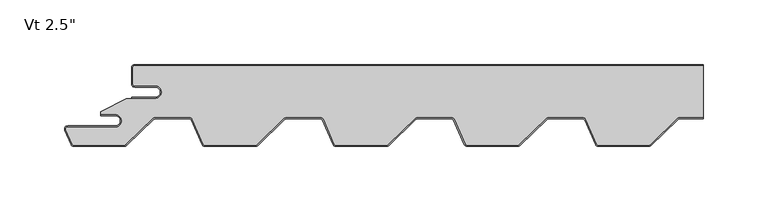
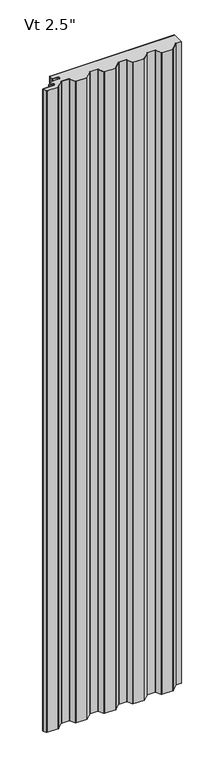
"""IFC4 building model written with IfcOpenShell, lengths in millimetres: plate geometry."""

from ifc_helpers import new_model, si_unit, point, frame_2d, origin, origin_with_axes, place, context, project, spatial, polyline, circle_curve, trimmed, segment, composite_curve, outline, extrude, source, transform, mapped, element, save


def plate_a0e9844f(model_context):
    return source(origin(), model_context, "Body", "SweptSolid", [
        extrude(outline(composite_curve([segment(trimmed(circle_curve(frame_2d((-202.9499998, -21.4324412)), 4.96875), [point((-202.9499998, -26.4011912))], [point((-202.9499998, -16.4636912))], True, "CARTESIAN"), True, "CONTINUOUS"), segment(polyline([(-202.9499998, -16.4636912), (-218.8249998, -16.4636912)]), True, "CONTINUOUS"), segment(trimmed(circle_curve(frame_2d((-218.8249998, -15.0824412)), 1.38125), [point((-218.8249998, -16.4636912))], [point((-220.2062498, -15.0824412))], False, "CARTESIAN"), True, "CONTINUOUS"), segment(polyline([(-220.2062498, -15.0824412), (-220.2062498, -2.3824412)]), True, "CONTINUOUS"), segment(trimmed(circle_curve(frame_2d((-218.8249998, -2.3824412)), 1.38125), [point((-220.2062498, -2.3824412))], [point((-218.8249998, -1.0011912))], False, "CARTESIAN"), True, "CONTINUOUS"), segment(polyline([(-218.8249998, -1.0011912), (221.9999998, -1.0011912), (221.9999998, -40.9862), (203.4679504, -40.9862)]), True, "CONTINUOUS"), segment(trimmed(circle_curve(frame_2d((203.4679504, -43.5737)), 2.5875), [point((203.4679504, -40.9862))], [point((201.6682998, -41.7145567))], True, "CARTESIAN"), True, "CONTINUOUS"), segment(polyline([(201.6682998, -41.7145567), (180.5973964, -62.1111912)]), True, "CONTINUOUS"), segment(trimmed(circle_curve(frame_2d((179.6367133, -61.11875)), 1.38125), [point((180.5973964, -62.1111912))], [point((179.6367133, -62.5))], False, "CARTESIAN"), True, "CONTINUOUS"), segment(polyline([(179.6367133, -62.5), (140.5000059, -62.5)]), True, "CONTINUOUS"), segment(trimmed(circle_curve(frame_2d((140.5000059, -61.11875)), 1.38125), [point((140.5000059, -62.5))], [point((139.2370056, -61.6779296))], False, "CARTESIAN"), True, "CONTINUOUS"), segment(polyline([(139.2370056, -61.6779296), (130.7577807, -42.5261871)]), True, "CONTINUOUS"), segment(trimmed(circle_curve(frame_2d((128.3917983, -43.5737)), 2.5875), [point((130.7577807, -42.5261871))], [point((128.3917983, -40.9862))], True, "CARTESIAN"), True, "CONTINUOUS"), segment(polyline([(128.3917983, -40.9862), (101.8679504, -40.9862)]), True, "CONTINUOUS"), segment(trimmed(circle_curve(frame_2d((101.8679504, -43.5737)), 2.5875), [point((101.8679504, -40.9862))], [point((100.0682998, -41.7145567))], True, "CARTESIAN"), True, "CONTINUOUS"), segment(polyline([(100.0682998, -41.7145567), (78.9973964, -62.1111912)]), True, "CONTINUOUS"), segment(trimmed(circle_curve(frame_2d((78.0367133, -61.11875)), 1.38125), [point((78.9973964, -62.1111912))], [point((78.0367133, -62.5))], False, "CARTESIAN"), True, "CONTINUOUS"), segment(polyline([(78.0367133, -62.5), (38.9000059, -62.5)]), True, "CONTINUOUS"), segment(trimmed(circle_curve(frame_2d((38.9000059, -61.11875)), 1.38125), [point((38.9000059, -62.5))], [point((37.6370056, -61.6779296))], False, "CARTESIAN"), True, "CONTINUOUS"), segment(polyline([(37.6370056, -61.6779296), (29.1577807, -42.5261871)]), True, "CONTINUOUS"), segment(trimmed(circle_curve(frame_2d((26.7917983, -43.5737)), 2.5875), [point((29.1577807, -42.5261871))], [point((26.7917983, -40.9862))], True, "CARTESIAN"), True, "CONTINUOUS"), segment(polyline([(26.7917983, -40.9862), (0.2679504, -40.9862)]), True, "CONTINUOUS"), segment(trimmed(circle_curve(frame_2d((0.2679504, -43.5737)), 2.5875), [point((0.2679504, -40.9862))], [point((-1.5317002, -41.7145567))], True, "CARTESIAN"), True, "CONTINUOUS"), segment(polyline([(-1.5317002, -41.7145567), (-22.6026036, -62.1111912)]), True, "CONTINUOUS"), segment(trimmed(circle_curve(frame_2d((-23.5632867, -61.11875)), 1.38125), [point((-22.6026036, -62.1111912))], [point((-23.5632867, -62.5))], False, "CARTESIAN"), True, "CONTINUOUS"), segment(polyline([(-23.5632867, -62.5), (-62.6999941, -62.5)]), True, "CONTINUOUS"), segment(trimmed(circle_curve(frame_2d((-62.6999941, -61.11875)), 1.38125), [point((-62.6999941, -62.5))], [point((-63.9629944, -61.6779296))], False, "CARTESIAN"), True, "CONTINUOUS"), segment(polyline([(-63.9629944, -61.6779296), (-72.4422193, -42.5261871)]), True, "CONTINUOUS"), segment(trimmed(circle_curve(frame_2d((-74.8082017, -43.5737)), 2.5875), [point((-72.4422193, -42.5261871))], [point((-74.8082017, -40.9862))], True, "CARTESIAN"), True, "CONTINUOUS"), segment(polyline([(-74.8082017, -40.9862), (-101.3320496, -40.9862)]), True, "CONTINUOUS"), segment(trimmed(circle_curve(frame_2d((-101.3320496, -43.5737)), 2.5875), [point((-101.3320496, -40.9862))], [point((-103.1317002, -41.7145567))], True, "CARTESIAN"), True, "CONTINUOUS"), segment(polyline([(-103.1317002, -41.7145567), (-124.2026036, -62.1111912)]), True, "CONTINUOUS"), segment(trimmed(circle_curve(frame_2d((-125.1632867, -61.11875)), 1.38125), [point((-124.2026036, -62.1111912))], [point((-125.1632867, -62.5))], False, "CARTESIAN"), True, "CONTINUOUS"), segment(polyline([(-125.1632867, -62.5), (-164.2999941, -62.5)]), True, "CONTINUOUS"), segment(trimmed(circle_curve(frame_2d((-164.2999941, -61.11875)), 1.38125), [point((-164.2999941, -62.5))], [point((-165.5629944, -61.6779296))], False, "CARTESIAN"), True, "CONTINUOUS"), segment(polyline([(-165.5629944, -61.6779296), (-174.0422193, -42.5261871)]), True, "CONTINUOUS"), segment(trimmed(circle_curve(frame_2d((-176.4082017, -43.5737)), 2.5875), [point((-174.0422193, -42.5261871))], [point((-176.4082017, -40.9862))], True, "CARTESIAN"), True, "CONTINUOUS"), segment(polyline([(-176.4082017, -40.9862), (-202.9320496, -40.9862)]), True, "CONTINUOUS"), segment(trimmed(circle_curve(frame_2d((-202.9320496, -43.5737)), 2.5875), [point((-202.9320496, -40.9862))], [point((-204.7317002, -41.7145567))], True, "CARTESIAN"), True, "CONTINUOUS"), segment(polyline([(-204.7317002, -41.7145567), (-225.593943, -61.9092077)]), True, "CONTINUOUS"), segment(trimmed(circle_curve(frame_2d((-227.0536944, -60.4012)), 2.0988), [point((-225.593943, -61.9092077))], [point((-227.0536944, -62.5))], False, "CARTESIAN"), True, "CONTINUOUS"), segment(polyline([(-227.0536944, -62.5), (-265.8999941, -62.5)]), True, "CONTINUOUS"), segment(trimmed(circle_curve(frame_2d((-265.8999941, -61.11875)), 1.38125), [point((-265.8999941, -62.5))], [point((-267.1629944, -61.6779296))], False, "CARTESIAN"), True, "CONTINUOUS"), segment(polyline([(-267.1629944, -61.6779296), (-272.0824051, -50.5666208)]), True, "CONTINUOUS"), segment(trimmed(circle_curve(frame_2d((-270.8194048, -50.0074412)), 1.38125), [point((-272.0824051, -50.5666208))], [point((-270.8194048, -48.6261912))], False, "CARTESIAN"), True, "CONTINUOUS"), segment(polyline([(-270.8194048, -48.6261912), (-233.9062498, -48.6261912)]), True, "CONTINUOUS"), segment(trimmed(circle_curve(frame_2d((-233.9062498, -43.6574412)), 4.96875), [point((-233.9062498, -48.6261912))], [point((-233.9062498, -38.6886912))], True, "CARTESIAN"), True, "CONTINUOUS"), segment(polyline([(-233.9062498, -38.6886912), (-245.0187498, -38.6886912), (-245.0187498, -36.533822), (-225.197661, -26.4011912), (-202.9499998, -26.4011912)]), True, "CONTINUOUS")], self_intersect=False)), origin_with_axes(), (0.0, 0.0, 1.0), 2400.0),
        extrude(outline(composite_curve([segment(polyline([(-221.2062498, -25.4), (-202.9499998, -25.4)]), True, "CONTINUOUS"), segment(trimmed(circle_curve(frame_2d((-202.9499998, -21.43125)), 3.96875), [point((-202.9499998, -25.4))], [point((-202.9499998, -17.4625))], True, "CARTESIAN"), True, "CONTINUOUS"), segment(polyline([(-202.9499998, -17.4625), (-218.8249998, -17.4625)]), True, "CONTINUOUS"), segment(trimmed(circle_curve(frame_2d((-218.8249998, -15.08125)), 2.38125), [point((-218.8249998, -17.4625))], [point((-221.2062498, -15.08125))], False, "CARTESIAN"), True, "CONTINUOUS"), segment(polyline([(-221.2062498, -15.08125), (-221.2062498, -2.38125)]), True, "CONTINUOUS"), segment(trimmed(circle_curve(frame_2d((-218.8249998, -2.38125)), 2.38125), [point((-221.2062498, -2.38125))], [point((-218.8249998, 0.0))], False, "CARTESIAN"), True, "CONTINUOUS"), segment(polyline([(-218.8249998, 0.0), (221.9999998, 0.0), (221.9999998, -1.0), (-218.8249998, -1.0)]), True, "CONTINUOUS"), segment(trimmed(circle_curve(frame_2d((-218.8249998, -2.38125)), 1.38125), [point((-218.8249998, -1.0))], [point((-220.2062498, -2.38125))], True, "CARTESIAN"), True, "CONTINUOUS"), segment(polyline([(-220.2062498, -2.38125), (-220.2062498, -15.08125)]), True, "CONTINUOUS"), segment(trimmed(circle_curve(frame_2d((-218.8249998, -15.08125)), 1.38125), [point((-220.2062498, -15.08125))], [point((-218.8249998, -16.4625))], True, "CARTESIAN"), True, "CONTINUOUS"), segment(polyline([(-218.8249998, -16.4625), (-202.9499998, -16.4625)]), True, "CONTINUOUS"), segment(trimmed(circle_curve(frame_2d((-202.9499998, -21.43125)), 4.96875), [point((-202.9499998, -16.4625))], [point((-202.9499998, -26.4))], False, "CARTESIAN"), True, "CONTINUOUS"), segment(polyline([(-202.9499998, -26.4), (-221.2062498, -26.4), (-221.2062498, -25.4)]), True, "CONTINUOUS")], self_intersect=False)), origin_with_axes(), (0.0, 0.0, 1.0), 2400.0),
        extrude(outline(composite_curve([segment(trimmed(circle_curve(frame_2d((-233.9062498, -43.6574412)), 3.96875), [point((-233.9062498, -47.6261912))], [point((-233.9062498, -39.6886912))], True, "CARTESIAN"), True, "CONTINUOUS"), segment(polyline([(-233.9062498, -39.6886912), (-245.0187498, -39.6886912), (-245.0187498, -38.6886912), (-233.9062498, -38.6886912)]), True, "CONTINUOUS"), segment(trimmed(circle_curve(frame_2d((-233.9062498, -43.6574412)), 4.96875), [point((-233.9062498, -38.6886912))], [point((-233.9062498, -48.6261912))], False, "CARTESIAN"), True, "CONTINUOUS"), segment(polyline([(-233.9062498, -48.6261912), (-270.8194048, -48.6261912)]), True, "CONTINUOUS"), segment(trimmed(circle_curve(frame_2d((-270.8194048, -50.0074412)), 1.38125), [point((-270.8194048, -48.6261912))], [point((-272.0824051, -50.5666208))], True, "CARTESIAN"), True, "CONTINUOUS"), segment(polyline([(-272.0824051, -50.5666208), (-267.1629944, -61.6779296)]), True, "CONTINUOUS"), segment(trimmed(circle_curve(frame_2d((-265.8999941, -61.11875)), 1.38125), [point((-267.1629944, -61.6779296))], [point((-265.8999941, -62.5))], True, "CARTESIAN"), True, "CONTINUOUS"), segment(polyline([(-265.8999941, -62.5), (-227.0536944, -62.5)]), True, "CONTINUOUS"), segment(trimmed(circle_curve(frame_2d((-227.0536944, -60.4012)), 2.0988), [point((-227.0536944, -62.5))], [point((-225.593943, -61.9092077))], True, "CARTESIAN"), True, "CONTINUOUS"), segment(polyline([(-225.593943, -61.9092077), (-204.7317002, -41.7145567)]), True, "CONTINUOUS"), segment(trimmed(circle_curve(frame_2d((-202.9320496, -43.5737)), 2.5875), [point((-204.7317002, -41.7145567))], [point((-202.9320496, -40.9862))], False, "CARTESIAN"), True, "CONTINUOUS"), segment(polyline([(-202.9320496, -40.9862), (-176.4082017, -40.9862)]), True, "CONTINUOUS"), segment(trimmed(circle_curve(frame_2d((-176.4082017, -43.5737)), 2.5875), [point((-176.4082017, -40.9862))], [point((-174.0422193, -42.5261871))], False, "CARTESIAN"), True, "CONTINUOUS"), segment(polyline([(-174.0422193, -42.5261871), (-165.5629944, -61.6779296)]), True, "CONTINUOUS"), segment(trimmed(circle_curve(frame_2d((-164.2999941, -61.11875)), 1.38125), [point((-165.5629944, -61.6779296))], [point((-164.2999941, -62.5))], True, "CARTESIAN"), True, "CONTINUOUS"), segment(polyline([(-164.2999941, -62.5), (-125.1632867, -62.5)]), True, "CONTINUOUS"), segment(trimmed(circle_curve(frame_2d((-125.1632867, -61.11875)), 1.38125), [point((-125.1632867, -62.5))], [point((-124.2026036, -62.1111912))], True, "CARTESIAN"), True, "CONTINUOUS"), segment(polyline([(-124.2026036, -62.1111912), (-103.1317002, -41.7145567)]), True, "CONTINUOUS"), segment(trimmed(circle_curve(frame_2d((-101.3320496, -43.5737)), 2.5875), [point((-103.1317002, -41.7145567))], [point((-101.3320496, -40.9862))], False, "CARTESIAN"), True, "CONTINUOUS"), segment(polyline([(-101.3320496, -40.9862), (-74.8082017, -40.9862)]), True, "CONTINUOUS"), segment(trimmed(circle_curve(frame_2d((-74.8082017, -43.5737)), 2.5875), [point((-74.8082017, -40.9862))], [point((-72.4422193, -42.5261871))], False, "CARTESIAN"), True, "CONTINUOUS"), segment(polyline([(-72.4422193, -42.5261871), (-63.9629944, -61.6779296)]), True, "CONTINUOUS"), segment(trimmed(circle_curve(frame_2d((-62.6999941, -61.11875)), 1.38125), [point((-63.9629944, -61.6779296))], [point((-62.6999941, -62.5))], True, "CARTESIAN"), True, "CONTINUOUS"), segment(polyline([(-62.6999941, -62.5), (-23.5632867, -62.5)]), True, "CONTINUOUS"), segment(trimmed(circle_curve(frame_2d((-23.5632867, -61.11875)), 1.38125), [point((-23.5632867, -62.5))], [point((-22.6026036, -62.1111912))], True, "CARTESIAN"), True, "CONTINUOUS"), segment(polyline([(-22.6026036, -62.1111912), (-1.5317002, -41.7145567)]), True, "CONTINUOUS"), segment(trimmed(circle_curve(frame_2d((0.2679504, -43.5737)), 2.5875), [point((-1.5317002, -41.7145567))], [point((0.2679504, -40.9862))], False, "CARTESIAN"), True, "CONTINUOUS"), segment(polyline([(0.2679504, -40.9862), (26.7917983, -40.9862)]), True, "CONTINUOUS"), segment(trimmed(circle_curve(frame_2d((26.7917983, -43.5737)), 2.5875), [point((26.7917983, -40.9862))], [point((29.1577807, -42.5261871))], False, "CARTESIAN"), True, "CONTINUOUS"), segment(polyline([(29.1577807, -42.5261871), (37.6370056, -61.6779296)]), True, "CONTINUOUS"), segment(trimmed(circle_curve(frame_2d((38.9000059, -61.11875)), 1.38125), [point((37.6370056, -61.6779296))], [point((38.9000059, -62.5))], True, "CARTESIAN"), True, "CONTINUOUS"), segment(polyline([(38.9000059, -62.5), (78.0367133, -62.5)]), True, "CONTINUOUS"), segment(trimmed(circle_curve(frame_2d((78.0367133, -61.11875)), 1.38125), [point((78.0367133, -62.5))], [point((78.9973964, -62.1111912))], True, "CARTESIAN"), True, "CONTINUOUS"), segment(polyline([(78.9973964, -62.1111912), (100.0682998, -41.7145567)]), True, "CONTINUOUS"), segment(trimmed(circle_curve(frame_2d((101.8679504, -43.5737)), 2.5875), [point((100.0682998, -41.7145567))], [point((101.8679504, -40.9862))], False, "CARTESIAN"), True, "CONTINUOUS"), segment(polyline([(101.8679504, -40.9862), (128.3917983, -40.9862)]), True, "CONTINUOUS"), segment(trimmed(circle_curve(frame_2d((128.3917983, -43.5737)), 2.5875), [point((128.3917983, -40.9862))], [point((130.7577807, -42.5261871))], False, "CARTESIAN"), True, "CONTINUOUS"), segment(polyline([(130.7577807, -42.5261871), (139.2370056, -61.6779296)]), True, "CONTINUOUS"), segment(trimmed(circle_curve(frame_2d((140.5000059, -61.11875)), 1.38125), [point((139.2370056, -61.6779296))], [point((140.5000059, -62.5))], True, "CARTESIAN"), True, "CONTINUOUS"), segment(polyline([(140.5000059, -62.5), (179.6367133, -62.5)]), True, "CONTINUOUS"), segment(trimmed(circle_curve(frame_2d((179.6367133, -61.11875)), 1.38125), [point((179.6367133, -62.5))], [point((180.5973964, -62.1111912))], True, "CARTESIAN"), True, "CONTINUOUS"), segment(polyline([(180.5973964, -62.1111912), (201.6682998, -41.7145567)]), True, "CONTINUOUS"), segment(trimmed(circle_curve(frame_2d((203.4679504, -43.5737)), 2.5875), [point((201.6682998, -41.7145567))], [point((203.4679504, -40.9862))], False, "CARTESIAN"), True, "CONTINUOUS"), segment(polyline([(203.4679504, -40.9862), (221.9999998, -40.9862), (221.9999998, -41.9862), (203.4679504, -41.9862)]), True, "CONTINUOUS"), segment(trimmed(circle_curve(frame_2d((203.4679504, -43.5737)), 1.5875), [point((203.4679504, -41.9862))], [point((202.3638169, -42.4330662))], True, "CARTESIAN"), True, "CONTINUOUS"), segment(polyline([(202.3638169, -42.4330662), (181.2929135, -62.8297007)]), True, "CONTINUOUS"), segment(trimmed(circle_curve(frame_2d((179.6367133, -61.11875)), 2.38125), [point((181.2929135, -62.8297007))], [point((179.6367133, -63.5))], False, "CARTESIAN"), True, "CONTINUOUS"), segment(polyline([(179.6367133, -63.5), (140.5000059, -63.5)]), True, "CONTINUOUS"), segment(trimmed(circle_curve(frame_2d((140.5000059, -61.11875)), 2.38125), [point((140.5000059, -63.5))], [point((138.3226162, -62.0827655))], False, "CARTESIAN"), True, "CONTINUOUS"), segment(polyline([(138.3226162, -62.0827655), (129.8433914, -42.931023)]), True, "CONTINUOUS"), segment(trimmed(circle_curve(frame_2d((128.3917983, -43.5737)), 1.5875), [point((129.8433914, -42.931023))], [point((128.3917983, -41.9862))], True, "CARTESIAN"), True, "CONTINUOUS"), segment(polyline([(128.3917983, -41.9862), (101.8679504, -41.9862)]), True, "CONTINUOUS"), segment(trimmed(circle_curve(frame_2d((101.8679504, -43.5737)), 1.5875), [point((101.8679504, -41.9862))], [point((100.7638169, -42.4330662))], True, "CARTESIAN"), True, "CONTINUOUS"), segment(polyline([(100.7638169, -42.4330662), (79.6929135, -62.8297007)]), True, "CONTINUOUS"), segment(trimmed(circle_curve(frame_2d((78.0367133, -61.11875)), 2.38125), [point((79.6929135, -62.8297007))], [point((78.0367133, -63.5))], False, "CARTESIAN"), True, "CONTINUOUS"), segment(polyline([(78.0367133, -63.5), (38.9000059, -63.5)]), True, "CONTINUOUS"), segment(trimmed(circle_curve(frame_2d((38.9000059, -61.11875)), 2.38125), [point((38.9000059, -63.5))], [point((36.7226162, -62.0827655))], False, "CARTESIAN"), True, "CONTINUOUS"), segment(polyline([(36.7226162, -62.0827655), (28.2433914, -42.931023)]), True, "CONTINUOUS"), segment(trimmed(circle_curve(frame_2d((26.7917983, -43.5737)), 1.5875), [point((28.2433914, -42.931023))], [point((26.7917983, -41.9862))], True, "CARTESIAN"), True, "CONTINUOUS"), segment(polyline([(26.7917983, -41.9862), (0.2679504, -41.9862)]), True, "CONTINUOUS"), segment(trimmed(circle_curve(frame_2d((0.2679504, -43.5737)), 1.5875), [point((0.2679504, -41.9862))], [point((-0.8361831, -42.4330662))], True, "CARTESIAN"), True, "CONTINUOUS"), segment(polyline([(-0.8361831, -42.4330662), (-21.9070865, -62.8297007)]), True, "CONTINUOUS"), segment(trimmed(circle_curve(frame_2d((-23.5632867, -61.11875)), 2.38125), [point((-21.9070865, -62.8297007))], [point((-23.5632867, -63.5))], False, "CARTESIAN"), True, "CONTINUOUS"), segment(polyline([(-23.5632867, -63.5), (-62.6999941, -63.5)]), True, "CONTINUOUS"), segment(trimmed(circle_curve(frame_2d((-62.6999941, -61.11875)), 2.38125), [point((-62.6999941, -63.5))], [point((-64.8773838, -62.0827655))], False, "CARTESIAN"), True, "CONTINUOUS"), segment(polyline([(-64.8773838, -62.0827655), (-73.3566086, -42.931023)]), True, "CONTINUOUS"), segment(trimmed(circle_curve(frame_2d((-74.8082017, -43.5737)), 1.5875), [point((-73.3566086, -42.931023))], [point((-74.8082017, -41.9862))], True, "CARTESIAN"), True, "CONTINUOUS"), segment(polyline([(-74.8082017, -41.9862), (-101.3320496, -41.9862)]), True, "CONTINUOUS"), segment(trimmed(circle_curve(frame_2d((-101.3320496, -43.5737)), 1.5875), [point((-101.3320496, -41.9862))], [point((-102.4361831, -42.4330662))], True, "CARTESIAN"), True, "CONTINUOUS"), segment(polyline([(-102.4361831, -42.4330662), (-123.5070865, -62.8297007)]), True, "CONTINUOUS"), segment(trimmed(circle_curve(frame_2d((-125.1632867, -61.11875)), 2.38125), [point((-123.5070865, -62.8297007))], [point((-125.1632867, -63.5))], False, "CARTESIAN"), True, "CONTINUOUS"), segment(polyline([(-125.1632867, -63.5), (-164.2999941, -63.5)]), True, "CONTINUOUS"), segment(trimmed(circle_curve(frame_2d((-164.2999941, -61.11875)), 2.38125), [point((-164.2999941, -63.5))], [point((-166.4773838, -62.0827655))], False, "CARTESIAN"), True, "CONTINUOUS"), segment(polyline([(-166.4773838, -62.0827655), (-174.9566086, -42.931023)]), True, "CONTINUOUS"), segment(trimmed(circle_curve(frame_2d((-176.4082017, -43.5737)), 1.5875), [point((-174.9566086, -42.931023))], [point((-176.4082017, -41.9862))], True, "CARTESIAN"), True, "CONTINUOUS"), segment(polyline([(-176.4082017, -41.9862), (-202.9320496, -41.9862)]), True, "CONTINUOUS"), segment(trimmed(circle_curve(frame_2d((-202.9320496, -43.5737)), 1.5875), [point((-202.9320496, -41.9862))], [point((-204.0361831, -42.4330662))], True, "CARTESIAN"), True, "CONTINUOUS"), segment(polyline([(-204.0361831, -42.4330662), (-224.8984258, -62.6277172)]), True, "CONTINUOUS"), segment(trimmed(circle_curve(frame_2d((-227.0536944, -60.4012)), 3.0988), [point((-224.8984258, -62.6277172))], [point((-227.0536944, -63.5))], False, "CARTESIAN"), True, "CONTINUOUS"), segment(polyline([(-227.0536944, -63.5), (-265.8999941, -63.5)]), True, "CONTINUOUS"), segment(trimmed(circle_curve(frame_2d((-265.8999941, -61.11875)), 2.38125), [point((-265.8999941, -63.5))], [point((-268.0773838, -62.0827655))], False, "CARTESIAN"), True, "CONTINUOUS"), segment(polyline([(-268.0773838, -62.0827655), (-272.9967944, -50.9714567)]), True, "CONTINUOUS"), segment(trimmed(circle_curve(frame_2d((-270.8194048, -50.0074412)), 2.38125), [point((-272.9967944, -50.9714567))], [point((-270.8194048, -47.6261912))], False, "CARTESIAN"), True, "CONTINUOUS"), segment(polyline([(-270.8194048, -47.6261912), (-233.9062498, -47.6261912)]), True, "CONTINUOUS")], self_intersect=False)), origin_with_axes(), (0.0, 0.0, 1.0), 2400.0),
    ])


if __name__ == "__main__":
    model = new_model("IFC4")
    model_context = context("Model", 3, world=origin())
    ifc_project = project(units=[si_unit("LENGTHUNIT", "METRE", prefix="MILLI")], contexts=[model_context])
    site = spatial("IfcSite", under=ifc_project)
    building = spatial("IfcBuilding", under=site)
    placement = place(None, origin())
    plate_shape = plate_a0e9844f(model_context)
    element("IfcPlate", 1, ObjectType="KIP-20-DWR-R19-CP-Vt-S : Vt 2.5\"", at=placement, inside=building, context=model_context, shape_type="MappedRepresentation", body=[
        mapped(plate_shape, transform((0.0, 0.0, 0.0), x_axis=(1.0, 0.0, 0.0), y_axis=(0.0, 1.0, 0.0), z_axis=(0.0, 0.0, 1.0))),
    ])
    save(model, "model.ifc")
